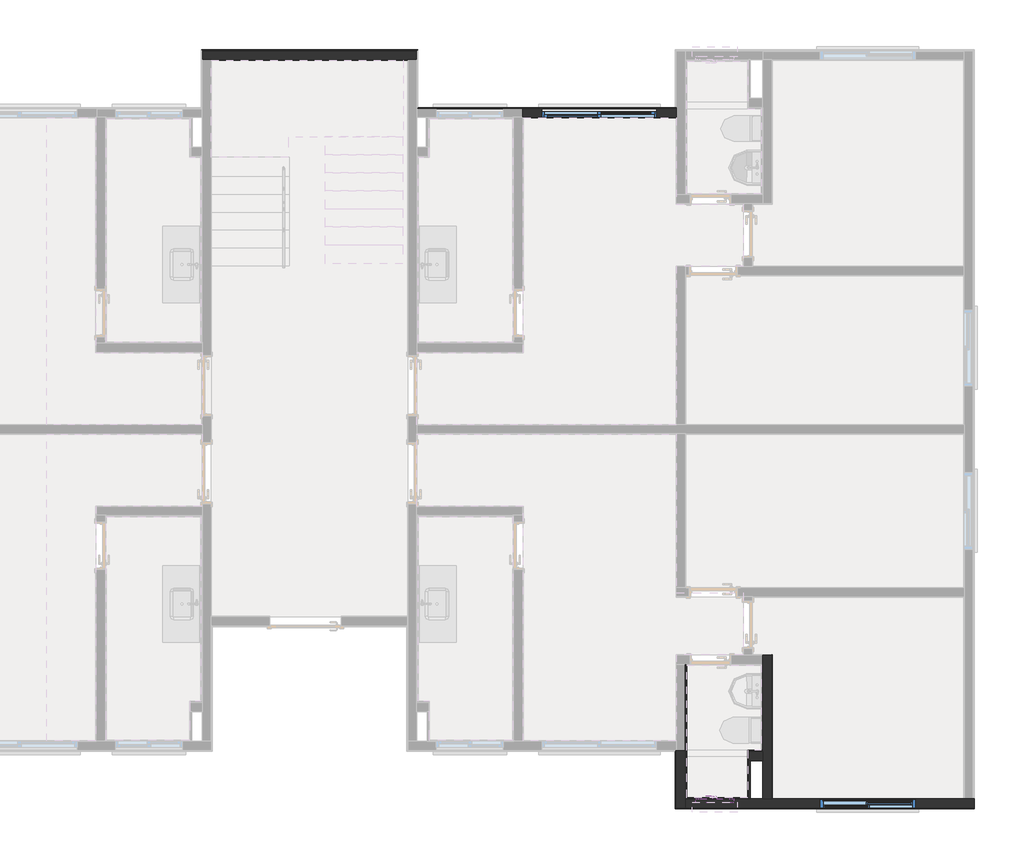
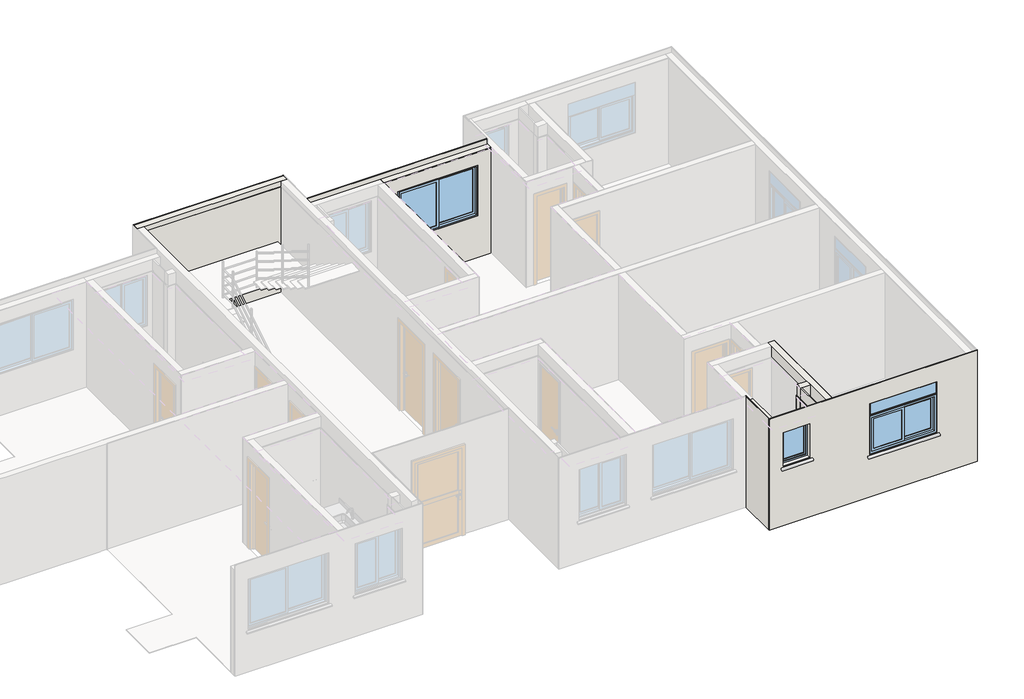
# One storey, part 7 of 11: 21 walls, 3 windows.
"""IFC4 building model written with IfcOpenShell, lengths in millimetres."""

from ifc_helpers import new_model, si_unit, frame, origin, origin_with_axes, place, context, project, spatial, polyline, outline, extrude, faceted_brep, transform, mapped, element, save
from components import window_150x120_d34a449e, window_180x120_f0fd8075, window_60x80_6d4336cf

model = new_model("IFC4")

# Units and contexts
model_context = context("Model", 3, world=origin())
ifc_project = project(units=[si_unit("LENGTHUNIT", "METRE", prefix="MILLI")], contexts=[model_context])

# Site, building, storey
site = spatial("IfcSite", under=ifc_project)
building = spatial("IfcBuilding", under=site)
storey = spatial("IfcBuildingStorey", under=building, Name="Térreo", Elevation=0.0)

# Walls
placement = place(None, origin())
element("IfcWall", 1, ObjectType="Mureta box", at=placement, inside=storey, context=model_context, shape_type="SweptSolid", body=[
    extrude(outline(polyline([(17290.0007274, 1294.9970972), (16310.0007274, 1294.9970972), (16310.0007274, 1304.9970972), (17290.0007274, 1304.9970972), (17290.0007274, 1294.9970972)])), origin_with_axes(), (0.0, 0.0, 1.0), 90.0),
    extrude(outline(polyline([(16310.0007274, 1374.9970972), (17290.0007274, 1374.9970972), (17290.0007274, 1364.9970972), (16310.0007274, 1364.9970972), (16310.0007274, 1374.9970972)])), origin_with_axes(), (0.0, 0.0, 1.0), 90.0),
    extrude(outline(polyline([(17290.0007274, 1364.9970972), (17290.0007274, 1304.9970972), (16310.0007274, 1304.9970972), (16310.0007274, 1364.9970972), (17290.0007274, 1364.9970972)])), origin_with_axes(), (0.0, 0.0, 1.0), 90.0),
    extrude(outline(polyline([(17290.0007274, 1294.9970972), (16310.0007274, 1294.9970972), (16310.0007274, 1304.9970972), (17290.0007274, 1304.9970972), (17290.0007274, 1294.9970972)])), origin_with_axes(), (0.0, 0.0, 1.0), 90.0),
    extrude(outline(polyline([(16310.0007274, 1374.9970972), (17290.0007274, 1374.9970972), (17290.0007274, 1364.9970972), (16310.0007274, 1364.9970972), (16310.0007274, 1374.9970972)])), origin_with_axes(), (0.0, 0.0, 1.0), 90.0),
    extrude(outline(polyline([(17290.0007274, 1364.9970972), (17290.0007274, 1304.9970972), (16310.0007274, 1304.9970972), (16310.0007274, 1364.9970972), (17290.0007274, 1364.9970972)])), origin_with_axes(), (0.0, 0.0, 1.0), 90.0),
])
element("IfcWall", 2, ObjectType="Alvenaria Estrutural", at=placement, inside=storey, context=model_context, shape_type="Brep", body=[
    faceted_brep([(11949.9984066, 12179.9995833, 2630.0), (12089.9984066, 12179.9995833, 2630.0), (12089.9984066, 12319.9995833, 2630.0), (8729.9963008, 12319.9995833, 2630.0), (8729.9963008, 12179.9995833, 2630.0), (8869.9963008, 12179.9995833, 2630.0), (8729.9963008, 12179.9995833, 0.0), (8729.9963008, 12319.9995833, 0.0), (12089.9984066, 12319.9995833, 0.0), (12089.9984066, 12179.9995833, 0.0), (8869.9963008, 12179.9995833, 0.0), (8875.9991022, 12179.9995833, 0.0), (11949.9984066, 12179.9995833, 0.0)], [[[0, 1, 2, 3, 4, 5]], [[6, 4, 3, 7]], [[7, 3, 2, 8]], [[9, 1, 0, 5, 4, 6, 10, 11, 12]], [[1, 9, 8, 2]], [[9, 12, 11, 10, 6, 7, 8]]]),
    faceted_brep([(12089.9984066, 12179.9995833, 0.0), (12089.9984066, 12179.9995833, 2630.0), (11949.9984066, 12179.9995833, 2630.0), (8869.9963008, 12179.9995833, 2630.0), (8729.9963008, 12179.9995833, 2630.0), (8729.9963008, 12179.9995833, 0.0), (8869.9963008, 12179.9995833, 0.0), (8875.9991022, 12179.9995833, 0.0), (11949.9984066, 12179.9995833, 0.0), (12089.9984066, 12319.9995833, 0.0), (8729.9963008, 12319.9995833, 0.0), (8729.9963008, 12319.9995833, 2630.0), (12089.9984066, 12319.9995833, 2630.0)], [[[0, 1, 2, 3, 4, 5, 6, 7, 8]], [[9, 10, 11, 12]], [[6, 5, 10, 9, 0, 8, 7]], [[2, 1, 12, 11, 4, 3]], [[5, 4, 11, 10]], [[1, 0, 9, 12]]]),
])
element("IfcWall", 3, ObjectType="Alvenaria Estrutural", at=placement, inside=storey, context=model_context, shape_type="Brep", body=[
    faceted_brep([(17499.9970535, 1359.9970972, 0.0), (17280.0007274, 1359.9970972, 0.0), (17280.0007274, 1359.9970972, 2510.0), (17499.9970535, 1359.9970972, 2510.0), (17499.9970535, 1219.9970972, 0.0), (17303.0007274, 1219.9970972, 0.0), (17280.0007274, 1219.9970972, 0.0), (17280.0007274, 1219.9970972, 2510.0), (17303.0007274, 1219.9970972, 2510.0), (17499.9970535, 1219.9970972, 2510.0)], [[[0, 1, 2, 3]], [[1, 0, 4, 5, 6]], [[3, 2, 7, 8, 9]], [[4, 9, 8, 7, 6, 5]], [[2, 1, 6, 7]], [[0, 3, 9, 4]]]),
    faceted_brep([(17499.9970535, 1359.9970972, 0.0), (17280.0007274, 1359.9970972, 0.0), (17280.0007274, 1359.9970972, 2510.0), (17499.9970535, 1359.9970972, 2510.0), (17499.9970535, 1219.9970972, 0.0), (17499.9970535, 1219.9970972, 2510.0), (17303.0007274, 1219.9970972, 2510.0), (17280.0007274, 1219.9970972, 2510.0), (17280.0007274, 1219.9970972, 0.0), (17303.0007274, 1219.9970972, 0.0)], [[[0, 1, 2, 3]], [[4, 5, 6, 7, 8, 9]], [[1, 0, 4, 9, 8]], [[3, 2, 7, 6, 5]], [[2, 1, 8, 7]], [[0, 3, 5, 4]]]),
])
element("IfcWall", 4, ObjectType="Alvenaria Estrutural", at=placement, inside=storey, context=model_context, shape_type="Brep", body=[
    faceted_brep([(17639.9970535, 625.9952456, 0.0), (17639.9970535, 619.9952456, 0.0), (17499.9970535, 619.9952456, 0.0), (17499.9970535, 1219.9970972, 0.0), (17499.9970535, 1359.9970972, 0.0), (17499.9970535, 1379.9970972, 0.0), (17499.9970535, 2709.9967615, 0.0), (17499.9970535, 2729.9967615, 0.0), (17499.9970535, 2869.9967615, 0.0), (17639.9970535, 2869.9967615, 0.0), (17639.9970535, 625.9952456, 2510.0), (17639.9970535, 2869.9967615, 2510.0), (17499.9970535, 2869.9967615, 2510.0), (17499.9970535, 2729.9967615, 2510.0), (17499.9970535, 1359.9970972, 2510.0), (17499.9970535, 1219.9970972, 2510.0), (17499.9970535, 619.9952456, 2510.0), (17639.9970535, 619.9952456, 2510.0)], [[[0, 1, 2, 3, 4, 5, 6, 7, 8, 9]], [[10, 11, 12, 13, 14, 15, 16, 17]], [[1, 0, 9, 11, 10, 17]], [[2, 16, 15, 14, 13, 12, 8, 7, 6, 5, 4, 3]], [[11, 9, 8, 12]], [[1, 17, 16, 2]]]),
    faceted_brep([(17639.9970535, 619.9952456, 0.0), (17639.9970535, 625.9952456, 0.0), (17639.9970535, 2869.9967615, 0.0), (17639.9970535, 2869.9967615, 2510.0), (17639.9970535, 625.9952456, 2510.0), (17639.9970535, 619.9952456, 2510.0), (17499.9970535, 619.9952456, 0.0), (17499.9970535, 619.9952456, 2510.0), (17499.9970535, 1219.9970972, 2510.0), (17499.9970535, 1359.9970972, 2510.0), (17499.9970535, 2729.9967615, 2510.0), (17499.9970535, 2869.9967615, 2510.0), (17499.9970535, 2869.9967615, 0.0), (17499.9970535, 2729.9967615, 0.0), (17499.9970535, 2709.9967615, 0.0), (17499.9970535, 1379.9970972, 0.0), (17499.9970535, 1359.9970972, 0.0), (17499.9970535, 1219.9970972, 0.0)], [[[0, 1, 2, 3, 4, 5]], [[6, 7, 8, 9, 10, 11, 12, 13, 14, 15, 16, 17]], [[1, 0, 6, 17, 16, 15, 14, 13, 12, 2]], [[4, 3, 11, 10, 9, 8, 7, 5]], [[3, 2, 12, 11]], [[0, 5, 7, 6]]]),
])
element("IfcWall", 5, ObjectType="Alvenaria Estrutural", at=placement, inside=storey, context=model_context, shape_type="Brep", body=[
    faceted_brep([(16289.9960602, 619.9952456, 0.0), (16289.9960602, 479.9952456, 0.0), (16149.9960602, 479.9952456, 0.0), (16149.9960602, 1374.9970972, 0.0), (16289.9960602, 1374.9970972, 0.0), (16289.9960602, 1374.9970972, 2510.0), (16149.9960602, 1374.9970972, 2510.0), (16289.9960602, 619.9952456, 2510.0), (16149.9960602, 479.9952456, 2510.0), (16289.9960602, 479.9952456, 2510.0)], [[[0, 1, 2, 3, 4]], [[5, 4, 3, 6]], [[7, 5, 6, 8, 9]], [[2, 8, 6, 3]], [[1, 0, 4, 5, 7, 9]], [[1, 9, 8, 2]]]),
    faceted_brep([(16289.9960602, 479.9952456, 0.0), (16289.9960602, 619.9952456, 0.0), (16289.9960602, 1374.9970972, 0.0), (16289.9960602, 1374.9970972, 2510.0), (16289.9960602, 619.9952456, 2510.0), (16289.9960602, 479.9952456, 2510.0), (16149.9960602, 479.9952456, 0.0), (16149.9960602, 479.9952456, 2510.0), (16149.9960602, 1374.9970972, 2510.0), (16149.9960602, 1374.9970972, 0.0)], [[[0, 1, 2, 3, 4, 5]], [[6, 7, 8, 9]], [[1, 0, 6, 9, 2]], [[3, 2, 9, 8]], [[4, 3, 8, 7, 5]], [[0, 5, 7, 6]]]),
])
element("IfcWall", 6, ObjectType="Alvenaria Estrutural", at=placement, inside=storey, context=model_context, shape_type="Brep", body=[
    faceted_brep([(16133.9970535, 11420.0223004, 0.0), (16149.9956991, 11420.0223004, 0.0), (16149.9956991, 11280.0223004, 0.0), (16143.9956991, 11280.0223004, 0.0), (13752.9960213, 11280.0223004, 0.0), (13746.9960213, 11280.0223004, 0.0), (13739.9956991, 11280.0223004, 0.0), (13739.9956991, 11420.0223004, 0.0), (13739.9956991, 11420.0223004, 2510.0), (13739.9956991, 11280.0223004, 2510.0), (16149.9956991, 11420.0223004, 2510.0), (13746.9960213, 11280.0223004, 2510.0), (13752.9960213, 11280.0223004, 2510.0), (16143.9956991, 11280.0223004, 2510.0), (16149.9956991, 11280.0223004, 2510.0), (14044.9954574, 11420.0223004, 1000.0), (14044.9954574, 11420.0223004, 2200.0), (14044.9954574, 11280.0223004, 2200.0), (14044.9954574, 11280.0223004, 1000.0), (14044.9954574, 11322.5223004, 1000.0), (15844.9954574, 11420.0223004, 2200.0), (15844.9954574, 11280.0223004, 2200.0), (15844.9954574, 11420.0223004, 1000.0), (15844.9954574, 11322.5223004, 1000.0), (15844.9954574, 11280.0223004, 1000.0), (15894.9954574, 11420.0223004, 1000.0), (15894.9954574, 11420.0223004, 951.3083694), (15894.9954574, 11322.5223004, 972.0326341), (15894.9954574, 11322.5223004, 1000.0), (13994.9954574, 11420.0223004, 951.3083694), (13994.9954574, 11420.0223004, 1000.0), (13994.9954574, 11322.5223004, 1000.0), (13994.9954574, 11322.5223004, 972.0326341)], [[[0, 1, 2, 3, 4, 5, 6, 7]], [[8, 7, 6, 9]], [[10, 8, 9, 11, 12, 13, 14]], [[1, 10, 14, 2]], [[15, 16, 17, 18, 19]], [[16, 20, 21, 17]], [[20, 22, 23, 24, 21]], [[18, 24, 23, 19]], [[25, 26, 27, 28]], [[29, 30, 31, 32]], [[19, 23, 28, 27, 32, 31]], [[22, 25, 28, 23]], [[26, 29, 32, 27]], [[30, 15, 19, 31]], [[6, 5, 4, 3, 2, 14, 13, 12, 11, 9], [18, 17, 21, 24]], [[1, 0, 7, 8, 10], [16, 15, 30, 29, 26, 25, 22, 20]]]),
    faceted_brep([(16149.9956991, 11420.0223004, 0.0), (16133.9970535, 11420.0223004, 0.0), (13739.9956991, 11420.0223004, 0.0), (13739.9956991, 11420.0223004, 2510.0), (16149.9956991, 11420.0223004, 2510.0), (14044.9954574, 11420.0223004, 2200.0), (14044.9954574, 11420.0223004, 1000.0), (13994.9954574, 11420.0223004, 1000.0), (13994.9954574, 11420.0223004, 951.3083694), (15894.9954574, 11420.0223004, 951.3083694), (15894.9954574, 11420.0223004, 1000.0), (15844.9954574, 11420.0223004, 1000.0), (15844.9954574, 11420.0223004, 2200.0), (13739.9956991, 11280.0223004, 0.0), (13746.9960213, 11280.0223004, 0.0), (13752.9960213, 11280.0223004, 0.0), (16143.9956991, 11280.0223004, 0.0), (16149.9956991, 11280.0223004, 0.0), (16149.9956991, 11280.0223004, 2510.0), (16143.9956991, 11280.0223004, 2510.0), (13752.9960213, 11280.0223004, 2510.0), (13746.9960213, 11280.0223004, 2510.0), (13739.9956991, 11280.0223004, 2510.0), (14044.9954574, 11280.0223004, 1000.0), (14044.9954574, 11280.0223004, 2200.0), (15844.9954574, 11280.0223004, 2200.0), (15844.9954574, 11280.0223004, 1000.0), (14044.9954574, 11322.5223004, 1000.0), (15844.9954574, 11322.5223004, 1000.0), (15894.9954574, 11322.5223004, 972.0326341), (15894.9954574, 11322.5223004, 1000.0), (13994.9954574, 11322.5223004, 1000.0), (13994.9954574, 11322.5223004, 972.0326341)], [[[0, 1, 2, 3, 4], [5, 6, 7, 8, 9, 10, 11, 12]], [[13, 14, 15, 16, 17, 18, 19, 20, 21, 22], [23, 24, 25, 26]], [[1, 0, 17, 16, 15, 14, 13, 2]], [[3, 2, 13, 22]], [[4, 3, 22, 21, 20, 19, 18]], [[0, 4, 18, 17]], [[6, 5, 24, 23, 27]], [[5, 12, 25, 24]], [[12, 11, 28, 26, 25]], [[23, 26, 28, 27]], [[10, 9, 29, 30]], [[8, 7, 31, 32]], [[27, 28, 30, 29, 32, 31]], [[11, 10, 30, 28]], [[9, 8, 32, 29]], [[7, 6, 27, 31]]]),
])
element("IfcWall", 7, ObjectType="Alvenaria Estrutural", at=placement, inside=storey, context=model_context, shape_type="Brep", body=[
    faceted_brep([(20805.9970535, 619.9952456, 0.0), (20789.9970535, 619.9952456, 0.0), (20649.9955249, 619.9952456, 0.0), (20643.9955249, 619.9952456, 0.0), (17639.9970535, 619.9952456, 0.0), (17499.9970535, 619.9952456, 0.0), (17303.0007274, 619.9952456, 0.0), (17280.0007274, 619.9952456, 0.0), (16309.9956991, 619.9952456, 0.0), (16289.9960602, 619.9952456, 0.0), (16289.9960602, 619.9952456, 2250.0), (16289.9960602, 619.9952456, 2510.0), (17280.0007274, 619.9952456, 2510.0), (17303.0007274, 619.9952456, 2510.0), (17499.9970535, 619.9952456, 2510.0), (17639.9970535, 619.9952456, 2510.0), (20643.9955249, 619.9952456, 2510.0), (20649.9955249, 619.9952456, 2510.0), (20789.9970535, 619.9952456, 2510.0), (20805.9970535, 619.9952456, 2510.0), (16449.9960602, 619.9952456, 2200.0), (16449.9960602, 619.9952456, 1400.0), (17049.9960602, 619.9952456, 1400.0), (17049.9960602, 619.9952456, 2200.0), (18394.9962631, 619.9952456, 2200.0), (18394.9962631, 619.9952456, 1000.0), (19894.9962631, 619.9952456, 1000.0), (19894.9962631, 619.9952456, 2200.0), (16289.9960602, 479.9952456, 0.0), (20805.9970535, 479.9952456, 0.0), (20805.9970535, 479.9952456, 2510.0), (20789.9970535, 479.9952456, 2510.0), (16289.9960602, 479.9952456, 2510.0), (17099.9960602, 479.9952456, 1400.0), (17099.9960602, 479.9952456, 1351.3083694), (16399.9960602, 479.9952456, 1351.3083694), (16399.9960602, 479.9952456, 1400.0), (16449.9960602, 479.9952456, 1400.0), (16449.9960602, 479.9952456, 2200.0), (17049.9960602, 479.9952456, 2200.0), (17049.9960602, 479.9952456, 1400.0), (19944.9962631, 479.9952456, 1000.0), (19944.9962631, 479.9952456, 951.3083694), (18344.9962631, 479.9952456, 951.3083694), (18344.9962631, 479.9952456, 1000.0), (18394.9962631, 479.9952456, 1000.0), (18394.9962631, 479.9952456, 2200.0), (19894.9962631, 479.9952456, 2200.0), (19894.9962631, 479.9952456, 1000.0), (19944.9962631, 577.4952456, 1000.0), (19944.9962631, 577.4952456, 972.0326341), (18344.9962631, 577.4952456, 972.0326341), (18344.9962631, 577.4952456, 1000.0), (19894.9962631, 577.4952456, 1000.0), (18394.9962631, 577.4952456, 1000.0), (17099.9960602, 577.4952456, 1400.0), (17099.9960602, 577.4952456, 1372.0326341), (16399.9960602, 577.4952456, 1372.0326341), (16399.9960602, 577.4952456, 1400.0), (17049.9960602, 577.4952456, 1400.0), (16449.9960602, 577.4952456, 1400.0)], [[[0, 1, 2, 3, 4, 5, 6, 7, 8, 9, 10, 11, 12, 13, 14, 15, 16, 17, 18, 19], [20, 21, 22, 23], [24, 25, 26, 27]], [[28, 29, 30, 31, 32], [33, 34, 35, 36, 37, 38, 39, 40], [41, 42, 43, 44, 45, 46, 47, 48]], [[1, 0, 29, 28, 9, 8, 7, 6, 5, 4, 3, 2]], [[12, 11, 32, 31, 30, 19, 18, 17, 16, 15, 14, 13]], [[42, 41, 49, 50]], [[44, 43, 51, 52]], [[50, 49, 53, 54, 52, 51]], [[41, 48, 53, 49]], [[43, 42, 50, 51]], [[25, 24, 46, 45, 54]], [[24, 27, 47, 46]], [[27, 26, 53, 48, 47]], [[26, 25, 54, 53]], [[34, 33, 55, 56]], [[36, 35, 57, 58]], [[56, 55, 59, 60, 58, 57]], [[33, 40, 59, 55]], [[35, 34, 56, 57]], [[21, 20, 38, 37, 60]], [[20, 23, 39, 38]], [[23, 22, 59, 40, 39]], [[22, 21, 60, 59]], [[0, 19, 30, 29]], [[10, 9, 28, 32, 11]], [[37, 36, 58, 60]], [[45, 44, 52, 54]]]),
])
element("IfcWall", 8, ObjectType="Azulejo", at=placement, inside=storey, context=model_context, shape_type="SolidModel", body=[
    faceted_brep([(16299.9956991, 2709.9967615, 0.0), (16309.9956991, 2709.9967615, 0.0), (16309.9956991, 639.9950349, 0.0), (16309.9956991, 629.9950349, 0.0), (16299.9956991, 629.9950349, 0.0), (16309.9956991, 639.9950349, 2250.0), (16309.9956991, 2709.9967615, 2250.0), (16299.9956991, 2709.9967615, 2250.0), (16299.9956991, 629.9950349, 2250.0), (16309.9956991, 629.9950349, 2250.0)], [[[0, 1, 2, 3, 4]], [[5, 6, 7, 8, 9]], [[1, 0, 7, 6]], [[7, 0, 4, 8]], [[2, 1, 6, 5, 9, 3]], [[4, 3, 9, 8]]]),
    extrude(outline(polyline([(16289.9956991, 619.9952456), (16289.9956991, 2719.9967615), (16299.9956991, 2719.9967615), (16299.9956991, 619.9952456), (16289.9956991, 619.9952456)])), origin_with_axes(), (0.0, 0.0, 1.0), 2250.0),
])
element("IfcWall", 9, ObjectType="Azulejo", at=placement, inside=storey, context=model_context, shape_type="SolidModel", body=[
    faceted_brep([(17270.0007274, 639.9950349, 0.0), (17280.0007274, 639.9950349, 0.0), (17280.0007274, 629.9950349, 0.0), (16309.9956991, 629.9950349, 0.0), (16309.9956991, 639.9950349, 0.0), (17270.0007274, 639.9950349, 2250.0), (16309.9956991, 639.9950349, 2250.0), (16309.9956991, 629.9950349, 2250.0), (17280.0007274, 629.9950349, 2250.0), (17280.0007274, 639.9950349, 2250.0), (16449.9960602, 639.9950349, 1400.0), (16449.9960602, 639.9950349, 2200.0), (16449.9960602, 629.9950349, 2200.0), (16449.9960602, 629.9950349, 1400.0), (17049.9960602, 639.9950349, 2200.0), (17049.9960602, 629.9950349, 2200.0), (17049.9960602, 639.9950349, 1400.0), (17049.9960602, 629.9950349, 1400.0)], [[[0, 1, 2, 3, 4]], [[5, 6, 7, 8, 9]], [[10, 11, 12, 13]], [[11, 14, 15, 12]], [[14, 16, 17, 15]], [[16, 10, 13, 17]], [[6, 4, 3, 7]], [[1, 9, 8, 2]], [[3, 2, 8, 7], [13, 12, 15, 17]], [[4, 6, 5, 9, 1, 0], [10, 16, 14, 11]]]),
    extrude(outline(polyline([(0.0, 16299.9956991), (0.0, 17280.0007274), (2250.0, 17280.0007274), (2250.0, 16299.9956991), (0.0, 16299.9956991)]), holes=[polyline([(1400.0, 16449.9960602), (2200.0, 16449.9960602), (2200.0, 17049.9960602), (1400.0, 17049.9960602), (1400.0, 16449.9960602)])]), frame((0.0, 619.9950349, 0.0), z_axis=(0.0, 1.0, 0.0), x_axis=(0.0, 0.0, 1.0)), (0.0, 0.0, 1.0), 10.0),
])
element("IfcWall", 10, ObjectType="Azulejo", at=placement, inside=storey, context=model_context, shape_type="SweptSolid", body=[
    extrude(outline(polyline([(17270.0007274, 1219.9970972), (17270.0007274, 1369.9970972), (17280.0007274, 1369.9970972), (17280.0007274, 1219.9970972), (17270.0007274, 1219.9970972)])), origin_with_axes(), (0.0, 0.0, 1.0), 2250.0),
    extrude(outline(polyline([(17290.0007274, 1359.9970972), (17290.0007274, 1219.9970972), (17280.0007274, 1219.9970972), (17280.0007274, 1359.9970972), (17290.0007274, 1359.9970972)])), origin_with_axes(), (0.0, 0.0, 1.0), 2250.0),
])
element("IfcWall", 11, ObjectType="Azulejo", at=placement, inside=storey, context=model_context, shape_type="Brep", body=[
    faceted_brep([(17270.0007274, 1369.9970972, 0.0), (17270.0007274, 1379.9970972, 0.0), (17479.9970535, 1379.9970972, 0.0), (17489.9970535, 1379.9970972, 0.0), (17489.9970535, 1369.9970972, 0.0), (17479.9970535, 1379.9970972, 2250.0), (17270.0007274, 1379.9970972, 2250.0), (17270.0007274, 1369.9970972, 2250.0), (17489.9970535, 1369.9970972, 2250.0), (17489.9970535, 1379.9970972, 2250.0)], [[[0, 1, 2, 3, 4]], [[5, 6, 7, 8, 9]], [[1, 0, 7, 6]], [[7, 0, 4, 8]], [[2, 1, 6, 5, 9, 3]], [[4, 3, 9, 8]]]),
    faceted_brep([(17499.9970535, 1369.9970972, 0.0), (17280.0007274, 1369.9970972, 0.0), (17280.0007274, 1369.9970972, 2250.0), (17499.9970535, 1369.9970972, 2250.0), (17499.9970535, 1359.9970972, 0.0), (17499.9970535, 1359.9970972, 2250.0), (17290.0007274, 1359.9970972, 2250.0), (17280.0007274, 1359.9970972, 2250.0), (17280.0007274, 1359.9970972, 0.0), (17290.0007274, 1359.9970972, 0.0)], [[[0, 1, 2, 3]], [[4, 5, 6, 7, 8, 9]], [[9, 8, 1, 0, 4]], [[6, 5, 3, 2, 7]], [[5, 4, 0, 3]], [[8, 7, 2, 1]]]),
])
element("IfcWall", 12, ObjectType="Azulejo - Shaft", at=placement, inside=storey, context=model_context, shape_type="SweptSolid", body=[
    extrude(outline(polyline([(17280.0007274, 1219.9970972), (17280.0007274, 639.9950349), (17270.0007274, 639.9950349), (17270.0007274, 1219.9970972), (17280.0007274, 1219.9970972)])), origin_with_axes(), (0.0, 0.0, 1.0), 2250.0),
])
element("IfcWall", 13, ObjectType="Gesso Liso + Pintura", at=placement, inside=storey, context=model_context, shape_type="SolidModel", body=[
    faceted_brep([(17645.9970535, 625.9952456, 0.0), (20643.9955249, 625.9952456, 0.0), (20643.9955249, 624.9952456, 0.0), (17644.9970535, 624.9952456, 0.0), (17644.9970535, 625.9952456, 0.0), (20643.9955249, 624.9952456, 2510.0), (20643.9955249, 625.9952456, 2510.0), (17645.9970535, 625.9952456, 2510.0), (17644.9970535, 625.9952456, 2510.0), (17644.9970535, 624.9952456, 2510.0), (18394.9962631, 625.9952456, 1000.0), (18394.9962631, 625.9952456, 2200.0), (18394.9962631, 624.9952456, 2200.0), (18394.9962631, 624.9952456, 1000.0), (19894.9962631, 625.9952456, 2200.0), (19894.9962631, 624.9952456, 2200.0), (19894.9962631, 625.9952456, 1000.0), (19894.9962631, 624.9952456, 1000.0)], [[[0, 1, 2, 3, 4]], [[5, 6, 7, 8, 9]], [[10, 11, 12, 13]], [[12, 11, 14, 15]], [[15, 14, 16, 17]], [[10, 13, 17, 16]], [[2, 1, 6, 5]], [[2, 5, 9, 3], [13, 12, 15, 17]], [[1, 0, 4, 8, 7, 6], [11, 10, 16, 14]], [[4, 3, 9, 8]]]),
    extrude(outline(polyline([(0.0, 20644.9955249), (2510.0, 20644.9955249), (2510.0, 17639.9970535), (0.0, 17639.9970535), (0.0, 20644.9955249)]), holes=[polyline([(1000.0, 18394.9962631), (2200.0, 18394.9962631), (2200.0, 19894.9962631), (1000.0, 19894.9962631), (1000.0, 18394.9962631)])]), frame((0.0, 619.9952456, 0.0), z_axis=(0.0, 1.0, 0.0), x_axis=(0.0, 0.0, 1.0)), (0.0, 0.0, 1.0), 5.0),
])
element("IfcWall", 14, ObjectType="Gesso Liso + Pintura", at=placement, inside=storey, context=model_context, shape_type="SolidModel", body=[
    extrude(outline(polyline([(17645.9970535, 2875.9967615), (17645.9970535, 625.9952456), (17644.9970535, 625.9952456), (17644.9970535, 2875.9967615), (17645.9970535, 2875.9967615)])), origin_with_axes(), (0.0, 0.0, 1.0), 2510.0),
    faceted_brep([(17644.9970535, 624.9952456, 0.0), (17644.9970535, 2874.9967615, 0.0), (17644.9970535, 2874.9967615, 2510.0), (17644.9970535, 624.9952456, 2510.0), (17639.9970535, 624.9952456, 0.0), (17639.9970535, 624.9952456, 2510.0), (17639.9970535, 2869.9967615, 2510.0), (17639.9970535, 2874.9967615, 2510.0), (17639.9970535, 2874.9967615, 0.0), (17639.9970535, 2869.9967615, 0.0)], [[[0, 1, 2, 3]], [[4, 5, 6, 7, 8, 9]], [[9, 8, 1, 0, 4]], [[6, 5, 3, 2, 7]], [[5, 4, 0, 3]], [[8, 7, 2, 1]]]),
])
element("IfcWall", 15, ObjectType="Gesso Liso + Pintura", at=placement, inside=storey, context=model_context, shape_type="SweptSolid", body=[
    extrude(outline(polyline([(0.0, 13746.9960213), (0.0, 16149.9960602), (2510.0, 16149.9960602), (2510.0, 13746.9960213), (0.0, 13746.9960213)]), holes=[polyline([(1000.0, 14044.9954574), (2200.0, 14044.9954574), (2200.0, 15844.9954574), (1000.0, 15844.9954574), (1000.0, 14044.9954574)])]), frame((0.0, 11274.0223004, 0.0), z_axis=(0.0, 1.0, 0.0), x_axis=(0.0, 0.0, 1.0)), (0.0, 0.0, 1.0), 1.0),
    extrude(outline(polyline([(0.0, 13746.9960213), (0.0, 16149.9960602), (2510.0, 16149.9960602), (2510.0, 13746.9960213), (0.0, 13746.9960213)]), holes=[polyline([(1000.0, 14044.9954574), (2200.0, 14044.9954574), (2200.0, 15844.9954574), (1000.0, 15844.9954574), (1000.0, 14044.9954574)])]), frame((0.0, 11275.0223004, 0.0), z_axis=(0.0, 1.0, 0.0), x_axis=(0.0, 0.0, 1.0)), (0.0, 0.0, 1.0), 5.0),
])
element("IfcWall", 16, ObjectType="Gesso Liso + Pintura", at=placement, inside=storey, context=model_context, shape_type="SolidModel", body=[
    faceted_brep([(11943.9984066, 12173.9995833, 0.0), (8875.9991022, 12173.9995833, 0.0), (8875.9991022, 12174.9995833, 0.0), (11944.9984066, 12174.9995833, 0.0), (11944.9984066, 12173.9995833, 0.0), (8875.9991022, 12174.9995833, 2510.0), (8875.9991022, 12173.9995833, 2510.0), (11943.9984066, 12173.9995833, 2510.0), (11944.9984066, 12173.9995833, 2510.0), (11944.9984066, 12174.9995833, 2510.0)], [[[0, 1, 2, 3, 4]], [[5, 6, 7, 8, 9]], [[2, 1, 6, 5]], [[2, 5, 9, 3]], [[1, 0, 4, 8, 7, 6]], [[4, 3, 9, 8]]]),
    extrude(outline(polyline([(8874.9991022, 12179.9995833), (11949.9984066, 12179.9995833), (11949.9984066, 12174.9995833), (8874.9991022, 12174.9995833), (8874.9991022, 12179.9995833)])), origin_with_axes(), (0.0, 0.0, 1.0), 2510.0),
])
element("IfcWall", 17, ObjectType="Reboco + Pintura Externa", at=placement, inside=storey, context=model_context, shape_type="Brep", body=[
    faceted_brep([(16449.9960602, 464.9952456, 1400.0), (16449.9960602, 464.9952456, 2200.0), (16449.9960602, 463.9952456, 2200.0), (16449.9960602, 463.9952456, 1400.0), (17049.9960602, 464.9952456, 1400.0), (17049.9960602, 463.9952456, 1400.0), (17049.9960602, 464.9952456, 2200.0), (17049.9960602, 463.9952456, 2200.0), (18394.9962631, 464.9952456, 1000.0), (18394.9962631, 464.9952456, 2200.0), (18394.9962631, 463.9952456, 2200.0), (18394.9962631, 463.9952456, 1000.0), (19894.9962631, 464.9952456, 1000.0), (19894.9962631, 463.9952456, 1000.0), (19894.9962631, 464.9952456, 2200.0), (19894.9962631, 463.9952456, 2200.0), (16133.9960602, 464.9952456, 0.0), (20805.9970535, 464.9952456, 0.0), (20805.9970535, 463.9952456, 0.0), (16133.9960602, 463.9952456, 0.0), (16133.9960602, 464.9952456, 2510.0), (16133.9960602, 463.9952456, 2510.0), (16133.9960602, 463.9952456, 2630.0), (16133.9960602, 464.9952456, 2630.0), (20805.9970535, 464.9952456, 2510.0), (20805.9970535, 464.9952456, 2630.0), (20805.9970535, 463.9952456, 2630.0), (20805.9970535, 463.9952456, 2510.0)], [[[0, 1, 2, 3]], [[4, 0, 3, 5]], [[6, 4, 5, 7]], [[1, 6, 7, 2]], [[8, 9, 10, 11]], [[12, 8, 11, 13]], [[14, 12, 13, 15]], [[9, 14, 15, 10]], [[16, 17, 18, 19]], [[20, 16, 19, 21, 22, 23]], [[17, 24, 25, 26, 27, 18]], [[17, 16, 20, 23, 25, 24], [1, 0, 4, 6], [9, 8, 12, 14]], [[19, 18, 27, 26, 22, 21], [3, 2, 7, 5], [11, 10, 15, 13]], [[25, 23, 22, 26]]]),
    faceted_brep([(16144.9960602, 474.9952456, 0.0), (20805.9970535, 474.9952456, 0.0), (20805.9970535, 474.9952456, 2510.0), (20805.9970535, 474.9952456, 2630.0), (16144.9960602, 474.9952456, 2630.0), (16144.9960602, 474.9952456, 2510.0), (18394.9962631, 474.9952456, 1000.0), (18394.9962631, 474.9952456, 2200.0), (19894.9962631, 474.9952456, 2200.0), (19894.9962631, 474.9952456, 1000.0), (16449.9960602, 474.9952456, 1400.0), (16449.9960602, 474.9952456, 2200.0), (17049.9960602, 474.9952456, 2200.0), (17049.9960602, 474.9952456, 1400.0), (16449.9960602, 479.9952456, 1400.0), (16449.9960602, 479.9952456, 2200.0), (17049.9960602, 479.9952456, 1400.0), (17049.9960602, 479.9952456, 2200.0), (18394.9962631, 479.9952456, 1000.0), (18394.9962631, 479.9952456, 2200.0), (19894.9962631, 479.9952456, 1000.0), (19894.9962631, 479.9952456, 2200.0), (16144.9960602, 479.9952456, 0.0), (16149.9960602, 479.9952456, 0.0), (16289.9960602, 479.9952456, 0.0), (20805.9970535, 479.9952456, 0.0), (20805.9970535, 479.9952456, 2510.0), (20805.9970535, 479.9952456, 2630.0), (16144.9960602, 479.9952456, 2510.0), (16144.9960602, 479.9952456, 2630.0), (16149.9960602, 479.9952456, 2630.0), (20789.9970535, 479.9952456, 2630.0)], [[[0, 1, 2, 3, 4, 5], [6, 7, 8, 9], [10, 11, 12, 13]], [[11, 10, 14, 15]], [[10, 13, 16, 14]], [[13, 12, 17, 16]], [[12, 11, 15, 17]], [[7, 6, 18, 19]], [[6, 9, 20, 18]], [[9, 8, 21, 20]], [[8, 7, 19, 21]], [[1, 0, 22, 23, 24, 25]], [[2, 1, 25, 26, 27, 3]], [[25, 24, 23, 22, 28, 29, 30, 31, 27, 26], [15, 14, 16, 17], [19, 18, 20, 21]], [[28, 22, 0, 5, 4, 29]], [[4, 3, 27, 31, 30, 29]]]),
    faceted_brep([(20805.9970535, 474.9952456, 0.0), (16134.9960602, 474.9952456, 0.0), (16134.9960602, 474.9952456, 2510.0), (16134.9960602, 474.9952456, 2630.0), (20805.9970535, 474.9952456, 2630.0), (20805.9970535, 474.9952456, 2510.0), (18394.9962631, 474.9952456, 2200.0), (18394.9962631, 474.9952456, 1000.0), (19894.9962631, 474.9952456, 1000.0), (19894.9962631, 474.9952456, 2200.0), (16449.9960602, 474.9952456, 2200.0), (16449.9960602, 474.9952456, 1400.0), (17049.9960602, 474.9952456, 1400.0), (17049.9960602, 474.9952456, 2200.0), (16449.9960602, 464.9952456, 2200.0), (16449.9960602, 464.9952456, 1400.0), (17049.9960602, 464.9952456, 1400.0), (17049.9960602, 464.9952456, 2200.0), (18394.9962631, 464.9952456, 2200.0), (18394.9962631, 464.9952456, 1000.0), (19894.9962631, 464.9952456, 1000.0), (19894.9962631, 464.9952456, 2200.0), (20805.9970535, 464.9952456, 0.0), (16134.9960602, 464.9952456, 0.0), (20805.9970535, 464.9952456, 2630.0), (20805.9970535, 464.9952456, 2510.0), (16134.9960602, 464.9952456, 2630.0), (16134.9960602, 464.9952456, 2510.0)], [[[0, 1, 2, 3, 4, 5], [6, 7, 8, 9], [10, 11, 12, 13]], [[11, 10, 14, 15]], [[12, 11, 15, 16]], [[13, 12, 16, 17]], [[10, 13, 17, 14]], [[7, 6, 18, 19]], [[8, 7, 19, 20]], [[9, 8, 20, 21]], [[6, 9, 21, 18]], [[1, 0, 22, 23]], [[0, 5, 4, 24, 25, 22]], [[23, 22, 25, 24, 26, 27], [15, 14, 17, 16], [19, 18, 21, 20]], [[1, 23, 27, 26, 3, 2]], [[4, 3, 26, 24]]]),
])
element("IfcWall", 18, ObjectType="Reboco + Pintura Externa", at=placement, inside=storey, context=model_context, shape_type="SolidModel", body=[
    faceted_brep([(16133.9960602, 464.9952456, 0.0), (16133.9960602, 1363.9983274, 0.0), (16133.9960602, 1364.9983274, 0.0), (16134.9960602, 1364.9983274, 0.0), (16134.9960602, 464.9952456, 0.0), (16134.9960602, 464.9952456, 10.0), (16134.9960602, 1364.9983274, 10.0), (16134.9960602, 1364.9983274, 2510.0), (16134.9960602, 1364.9983274, 2520.0), (16134.9960602, 1364.9983274, 2630.0), (16134.9960602, 464.9952456, 2630.0), (16134.9960602, 464.9952456, 2520.0), (16134.9960602, 464.9952456, 2510.0), (16133.9960602, 464.9952456, 10.0), (16133.9960602, 464.9952456, 2630.0), (16133.9960602, 464.9952456, 2520.0), (16133.9960602, 464.9952456, 2510.0), (16133.9960602, 1364.9983274, 10.0), (16133.9960602, 1364.9983274, 2510.0), (16133.9960602, 1364.9983274, 2520.0), (16133.9960602, 1364.9983274, 2630.0), (16133.9960602, 1363.9983274, 2630.0)], [[[0, 1, 2, 3, 4]], [[5, 4, 3, 6, 7, 8, 9, 10, 11, 12]], [[13, 0, 4, 5, 12, 11, 10, 14, 15, 16]], [[6, 3, 2, 17, 18, 19, 20, 9, 8, 7]], [[10, 9, 20, 21, 14]], [[1, 0, 13, 16, 15, 14, 21, 20, 19, 18, 17, 2]]]),
    extrude(outline(polyline([(16133.9960602, 1379.9983274), (16133.9960602, 1449.9983274), (16134.9960602, 1449.9983274), (16134.9960602, 1379.9983274), (16133.9960602, 1379.9983274)])), origin_with_axes(), (0.0, 0.0, 1.0), 10.0),
    faceted_brep([(16144.9960602, 1449.9983274, 10.0), (16144.9960602, 1379.9983274, 10.0), (16149.9960602, 1379.9983274, 10.0), (16149.9960602, 1449.9983274, 10.0), (16144.9960602, 1449.9983274, 0.0), (16144.9960602, 479.9952456, 0.0), (16144.9960602, 479.9952456, 10.0), (16144.9960602, 479.9952456, 2510.0), (16144.9960602, 479.9952456, 2520.0), (16144.9960602, 479.9952456, 2630.0), (16144.9960602, 1379.9983274, 2630.0), (16144.9960602, 1379.9983274, 2520.0), (16144.9960602, 1379.9983274, 2510.0), (16149.9960602, 1449.9983274, 0.0), (16149.9960602, 479.9952456, 0.0), (16149.9960602, 479.9952456, 10.0), (16149.9960602, 479.9952456, 2510.0), (16149.9960602, 479.9952456, 2520.0), (16149.9960602, 479.9952456, 2630.0), (16149.9960602, 1379.9983274, 2510.0), (16149.9960602, 1379.9983274, 2520.0), (16149.9960602, 1379.9983274, 2630.0)], [[[0, 1, 2, 3]], [[4, 5, 6, 7, 8, 9, 10, 11, 12, 1, 0]], [[5, 4, 13, 14]], [[4, 0, 3, 13]], [[6, 5, 14, 15, 16, 17, 18, 9, 8, 7]], [[14, 13, 3, 2, 19, 20, 21, 18, 17, 16, 15]], [[1, 12, 11, 10, 21, 20, 19, 2]], [[10, 9, 18, 21]]]),
    faceted_brep([(16144.9960602, 1379.9983274, 10.0), (16144.9960602, 1449.9983274, 10.0), (16143.9956991, 1449.9983274, 10.0), (16134.9960602, 1449.9983274, 10.0), (16134.9960602, 1379.9983274, 10.0), (16144.9960602, 474.9952456, 0.0), (16144.9960602, 1449.9983274, 0.0), (16144.9960602, 1379.9983274, 2510.0), (16144.9960602, 1379.9983274, 2520.0), (16144.9960602, 1379.9983274, 2630.0), (16144.9960602, 474.9952456, 2630.0), (16144.9960602, 474.9952456, 2520.0), (16144.9960602, 474.9952456, 2510.0), (16144.9960602, 474.9952456, 10.0), (16134.9960602, 474.9952456, 0.0), (16134.9960602, 1449.9983274, 0.0), (16143.9956991, 1449.9983274, 0.0), (16134.9960602, 474.9952456, 10.0), (16134.9960602, 474.9952456, 2510.0), (16134.9960602, 474.9952456, 2520.0), (16134.9960602, 474.9952456, 2630.0), (16134.9960602, 1379.9983274, 2630.0), (16134.9960602, 1379.9983274, 2520.0), (16134.9960602, 1379.9983274, 2510.0)], [[[0, 1, 2, 3, 4]], [[5, 6, 1, 0, 7, 8, 9, 10, 11, 12, 13]], [[6, 5, 14, 15, 16]], [[1, 6, 16, 15, 3, 2]], [[15, 14, 17, 18, 19, 20, 21, 22, 23, 4, 3]], [[14, 5, 13, 12, 11, 10, 20, 19, 18, 17]], [[7, 0, 4, 23, 22, 21, 9, 8]], [[10, 9, 21, 20]]]),
])
element("IfcWall", 19, ObjectType="Reboco + Pintura Externa", at=placement, inside=storey, context=model_context, shape_type="Brep", body=[
    faceted_brep([(16149.9960602, 11435.0223004, 0.0), (16149.9960602, 11435.0223004, 2510.0), (16149.9960602, 11435.0223004, 2630.0), (12104.9984066, 11435.0223004, 2630.0), (12104.9984066, 11435.0223004, 2510.0), (12104.9984066, 11435.0223004, 0.0), (12394.9954974, 11435.0223004, 1000.0), (12394.9954974, 11435.0223004, 2200.0), (13444.9954974, 11435.0223004, 2200.0), (13444.9954974, 11435.0223004, 1000.0), (14044.9954574, 11435.0223004, 1000.0), (14044.9954574, 11435.0223004, 2200.0), (15844.9954574, 11435.0223004, 2200.0), (15844.9954574, 11435.0223004, 1000.0), (14044.9954574, 11436.0223004, 1000.0), (14044.9954574, 11436.0223004, 2200.0), (15844.9954574, 11436.0223004, 1000.0), (15844.9954574, 11436.0223004, 2200.0), (12394.9954974, 11436.0223004, 1000.0), (12394.9954974, 11436.0223004, 2200.0), (13444.9954974, 11436.0223004, 1000.0), (13444.9954974, 11436.0223004, 2200.0), (12105.9984066, 11436.0223004, 0.0), (16149.9960602, 11436.0223004, 0.0), (12104.9984066, 11436.0223004, 0.0), (16149.9960602, 11436.0223004, 2510.0), (16149.9960602, 11436.0223004, 2630.0), (12104.9984066, 11436.0223004, 2510.0), (12104.9984066, 11436.0223004, 2630.0), (12105.9984066, 11436.0223004, 2630.0)], [[[0, 1, 2, 3, 4, 5], [6, 7, 8, 9], [10, 11, 12, 13]], [[11, 10, 14, 15]], [[10, 13, 16, 14]], [[13, 12, 17, 16]], [[12, 11, 15, 17]], [[7, 6, 18, 19]], [[6, 9, 20, 18]], [[9, 8, 21, 20]], [[8, 7, 19, 21]], [[22, 23, 0, 5, 24]], [[1, 0, 23, 25, 26, 2]], [[23, 22, 24, 27, 28, 29, 26, 25], [15, 14, 16, 17], [19, 18, 20, 21]], [[5, 4, 3, 28, 27, 24]], [[3, 2, 26, 29, 28]]]),
    faceted_brep([(14044.9954574, 11425.0223004, 1000.0), (14044.9954574, 11425.0223004, 2200.0), (14044.9954574, 11420.0223004, 2200.0), (14044.9954574, 11420.0223004, 1000.0), (15844.9954574, 11425.0223004, 1000.0), (15844.9954574, 11420.0223004, 1000.0), (15844.9954574, 11425.0223004, 2200.0), (15844.9954574, 11420.0223004, 2200.0), (12394.9954974, 11425.0223004, 1000.0), (12394.9954974, 11425.0223004, 2200.0), (12394.9954974, 11420.0223004, 2200.0), (12394.9954974, 11420.0223004, 1000.0), (13444.9954974, 11425.0223004, 1000.0), (13444.9954974, 11420.0223004, 1000.0), (13444.9954974, 11425.0223004, 2200.0), (13444.9954974, 11420.0223004, 2200.0), (12089.9984066, 11425.0223004, 0.0), (16149.9960602, 11425.0223004, 0.0), (16149.9960602, 11420.0223004, 0.0), (13739.9956991, 11420.0223004, 0.0), (12089.9984066, 11420.0223004, 0.0), (12089.9984066, 11425.0223004, 2510.0), (12089.9984066, 11420.0223004, 2510.0), (12089.9984066, 11420.0223004, 2630.0), (12089.9984066, 11425.0223004, 2630.0), (16149.9960602, 11425.0223004, 2510.0), (16149.9960602, 11425.0223004, 2630.0), (16149.9960602, 11420.0223004, 2630.0), (16149.9960602, 11420.0223004, 2510.0)], [[[0, 1, 2, 3]], [[4, 0, 3, 5]], [[6, 4, 5, 7]], [[1, 6, 7, 2]], [[8, 9, 10, 11]], [[12, 8, 11, 13]], [[14, 12, 13, 15]], [[9, 14, 15, 10]], [[16, 17, 18, 19, 20]], [[21, 16, 20, 22, 23, 24]], [[17, 25, 26, 27, 28, 18]], [[17, 16, 21, 24, 26, 25], [1, 0, 4, 6], [9, 8, 12, 14]], [[20, 19, 18, 28, 27, 23, 22], [3, 2, 7, 5], [11, 10, 15, 13]], [[26, 24, 23, 27]]]),
    faceted_brep([(16149.9960602, 11435.0223004, 2510.0), (16149.9960602, 11435.0223004, 0.0), (12094.9984066, 11435.0223004, 0.0), (12094.9984066, 11435.0223004, 2510.0), (12094.9984066, 11435.0223004, 2630.0), (16149.9960602, 11435.0223004, 2630.0), (12394.9954974, 11435.0223004, 2200.0), (12394.9954974, 11435.0223004, 1000.0), (13444.9954974, 11435.0223004, 1000.0), (13444.9954974, 11435.0223004, 2200.0), (14044.9954574, 11435.0223004, 2200.0), (14044.9954574, 11435.0223004, 1000.0), (15844.9954574, 11435.0223004, 1000.0), (15844.9954574, 11435.0223004, 2200.0), (14044.9954574, 11425.0223004, 2200.0), (14044.9954574, 11425.0223004, 1000.0), (15844.9954574, 11425.0223004, 1000.0), (15844.9954574, 11425.0223004, 2200.0), (12394.9954974, 11425.0223004, 2200.0), (12394.9954974, 11425.0223004, 1000.0), (13444.9954974, 11425.0223004, 1000.0), (13444.9954974, 11425.0223004, 2200.0), (16149.9960602, 11425.0223004, 0.0), (12094.9984066, 11425.0223004, 0.0), (16149.9960602, 11425.0223004, 2630.0), (16149.9960602, 11425.0223004, 2510.0), (12094.9984066, 11425.0223004, 2630.0), (12094.9984066, 11425.0223004, 2510.0)], [[[0, 1, 2, 3, 4, 5], [6, 7, 8, 9], [10, 11, 12, 13]], [[11, 10, 14, 15]], [[12, 11, 15, 16]], [[13, 12, 16, 17]], [[10, 13, 17, 14]], [[7, 6, 18, 19]], [[8, 7, 19, 20]], [[9, 8, 20, 21]], [[6, 9, 21, 18]], [[1, 22, 23, 2]], [[1, 0, 5, 24, 25, 22]], [[22, 25, 24, 26, 27, 23], [15, 14, 17, 16], [19, 18, 21, 20]], [[3, 2, 23, 27, 26, 4]], [[5, 4, 26, 24]]]),
])
element("IfcWall", 20, ObjectType="Reboco + Pintura Externa", at=placement, inside=storey, context=model_context, shape_type="SolidModel", body=[
    extrude(outline(polyline([(8714.9963008, 12335.9995833), (12105.9984066, 12335.9995833), (12105.9984066, 12334.9995833), (8714.9963008, 12334.9995833), (8714.9963008, 12335.9995833)])), origin_with_axes(), (0.0, 0.0, 1.0), 2630.0),
    faceted_brep([(12094.9984066, 12324.9995833, 0.0), (8729.9963008, 12324.9995833, 0.0), (8729.9963008, 12324.9995833, 2630.0), (12094.9984066, 12324.9995833, 2630.0), (12089.9984066, 12319.9995833, 0.0), (8729.9963008, 12319.9995833, 0.0), (12094.9984066, 12319.9995833, 0.0), (12089.9984066, 12319.9995833, 2630.0), (12094.9984066, 12319.9995833, 2630.0), (8729.9963008, 12319.9995833, 2630.0)], [[[0, 1, 2, 3]], [[4, 5, 1, 0, 6]], [[7, 8, 3, 2, 9]], [[5, 9, 2, 1]], [[5, 4, 6, 8, 7, 9]], [[8, 6, 0, 3]]]),
    extrude(outline(polyline([(8724.9963008, 12324.9995833), (8724.9963008, 12334.9995833), (12104.9984066, 12334.9995833), (12104.9984066, 12324.9995833), (8724.9963008, 12324.9995833)])), origin_with_axes(), (0.0, 0.0, 1.0), 2630.0),
])
element("IfcWall", 21, ObjectType="Shaft Drywall", at=placement, inside=storey, context=model_context, shape_type="Brep", body=[
    faceted_brep([(17280.0007274, 1219.9970972, 0.0), (17280.0007274, 639.9950349, 0.0), (17280.0007274, 619.9952456, 0.0), (17280.0007274, 619.9952456, 2250.0), (17280.0007274, 619.9952456, 2510.0), (17280.0007274, 1219.9970972, 2510.0), (17303.0007274, 1219.9970972, 0.0), (17303.0007274, 619.9952456, 0.0), (17303.0007274, 619.9952456, 2510.0), (17303.0007274, 1219.9970972, 2510.0)], [[[0, 1, 2, 3, 4, 5]], [[1, 0, 6, 7, 2]], [[5, 4, 8, 9]], [[6, 9, 8, 7]], [[3, 2, 7, 8, 4]], [[0, 5, 9, 6]]]),
    faceted_brep([(17280.0007274, 1219.9970972, 0.0), (17280.0007274, 639.9950349, 0.0), (17280.0007274, 619.9952456, 0.0), (17280.0007274, 619.9952456, 2250.0), (17280.0007274, 619.9952456, 2510.0), (17280.0007274, 1219.9970972, 2510.0), (17303.0007274, 1219.9970972, 0.0), (17303.0007274, 1219.9970972, 2510.0), (17303.0007274, 619.9952456, 2510.0), (17303.0007274, 619.9952456, 0.0)], [[[0, 1, 2, 3, 4, 5]], [[6, 7, 8, 9]], [[1, 0, 6, 9, 2]], [[5, 4, 8, 7]], [[3, 2, 9, 8, 4]], [[0, 5, 7, 6]]]),
])

# Windows
window_150x120_shape = window_150x120_d34a449e(model_context)
element("IfcWindow", 22, ObjectType="Veneziana - 2 Painéis : 150x120", at=placement, inside=storey, context=model_context, shape_type="MappedRepresentation", body=[
    mapped(window_150x120_shape, transform((19144.9962631, 549.9952456, 350.0), x_axis=(1.0, 0.0, 0.0), y_axis=(0.0, 1.0, 0.0), z_axis=(0.0, 0.0, 1.0))),
])
window_180x120_shape = window_180x120_f0fd8075(model_context)
element("IfcWindow", 23, ObjectType="Janela de correr - 2 Painéis : 180x120", at=placement, inside=storey, context=model_context, shape_type="MappedRepresentation", body=[
    mapped(window_180x120_shape, transform((14944.9954574, 11350.0223004, 350.0), x_axis=(1.0, 0.0, 0.0), y_axis=(0.0, 1.0, 0.0), z_axis=(0.0, 0.0, 1.0))),
])
window_60x80_shape = window_60x80_6d4336cf(model_context)
element("IfcWindow", 24, ObjectType="Janela Maxim-ar : 60x80", at=placement, inside=storey, context=model_context, shape_type="MappedRepresentation", body=[
    mapped(window_60x80_shape, transform((16749.9960602, 549.9952456, 750.0), x_axis=(1.0, 0.0, 0.0), y_axis=(0.0, 1.0, 0.0), z_axis=(0.0, 0.0, 1.0))),
])

save(model, "model.ifc")
